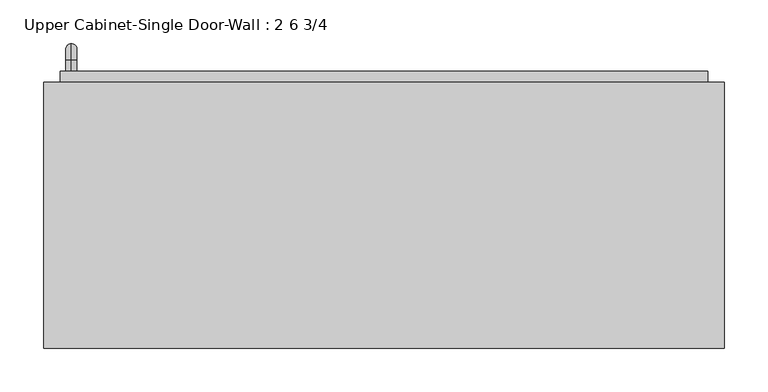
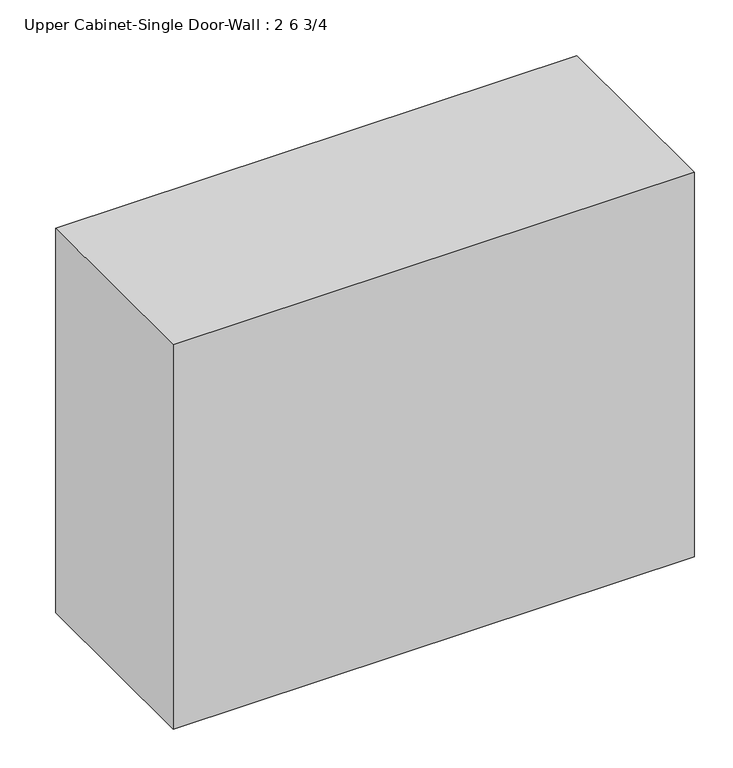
"""IFC4 building model written with IfcOpenShell, lengths in millimetres: furniture geometry, Upper Cabinet-Single Door-Wall : 2 6 3/4."""

from ifc_helpers import new_model, si_unit, point, frame, origin, place, context, project, spatial, polyline, circle_curve, ellipse_curve, trimmed, outline, extrude, faceted_brep, source, transform, mapped, element, save
from ifc_brep_helpers import plane_surface, cylinder_surface, revolved_surface, advanced_brep


def upper_cabinet_single_door_wall_2_6_3_4_3956a76a(model_context):
    return source(origin(), model_context, "Body", "SolidModel", [
        faceted_brep([(-360.7538372, 90.4875, 2133.6), (-360.7538372, 90.4875, 1524.0), (420.2961628, 90.4875, 1524.0), (420.2961628, 90.4875, 2133.6), (-360.7538372, 395.2875, 2133.6), (420.2961628, 395.2875, 2133.6), (420.2961628, 395.2875, 1524.0), (-360.7538372, 395.2875, 1524.0), (-341.7038372, 395.2875, 2114.55), (-341.7038372, 395.2875, 1543.05), (401.2461628, 395.2875, 1543.05), (401.2461628, 395.2875, 2114.55), (401.2461628, 109.5375, 2114.55), (-341.7038372, 109.5375, 2114.55), (401.2461628, 109.5375, 1543.05), (-341.7038372, 109.5375, 1543.05)], [[[0, 1, 2, 3]], [[4, 5, 6, 7], [8, 9, 10, 11]], [[1, 0, 4, 7]], [[2, 1, 7, 6]], [[3, 2, 6, 5]], [[0, 3, 5, 4]], [[8, 11, 12, 13]], [[11, 10, 14, 12]], [[10, 9, 15, 14]], [[9, 8, 13, 15]], [[13, 12, 14, 15]]]),
        advanced_brep(
        [(-329.0038372, 407.9875, 1670.05), (-329.0038372, 407.9875, 1682.75), (-329.0038372, 420.6875, 1670.05), (-329.0038372, 420.6875, 1682.75), (-329.0038372, 439.7375, 1663.7), (-329.0038372, 427.0375, 1663.7), (-329.0038372, 427.0375, 1587.5), (-329.0038372, 439.7375, 1587.5), (-329.0038372, 420.6875, 1568.45), (-329.0038372, 420.6875, 1581.15), (-329.0038372, 407.9875, 1581.15), (-329.0038372, 407.9875, 1568.45)],
        [
            (0, 1, circle_curve(frame((-329.0038372, 407.9875, 1676.4), z_axis=(0.0, -1.0, 0.0), x_axis=(0.0, 0.0, 1.0)), 6.35)),
            (1, 0, circle_curve(frame((-329.0038372, 407.9875, 1676.4), z_axis=(0.0, -1.0, 0.0), x_axis=(0.0, 0.0, 1.0)), 6.35)),
            (0, 2),
            (2, 3, circle_curve(frame((-329.0038372, 420.6875, 1676.4), z_axis=(0.0, -1.0, 0.0), x_axis=(0.0, 0.0, 1.0)), 6.35)),
            (3, 1),
            (3, 2, circle_curve(frame((-329.0038372, 420.6875, 1676.4), z_axis=(0.0, -1.0, 0.0), x_axis=(0.0, 0.0, 1.0)), 6.35)),
            (4, 3, circle_curve(frame((-329.0038372, 420.6875, 1663.7), z_axis=(1.0, 0.0, 0.0), x_axis=(0.0, 0.0, 1.0)), 19.05)),
            (2, 5, circle_curve(frame((-329.0038372, 420.6875, 1663.7), z_axis=(-1.0, 0.0, 0.0), x_axis=(0.0, 0.0, 1.0)), 6.35)),
            (5, 4, circle_curve(frame((-329.0038372, 433.3875, 1663.7), z_axis=(0.0, 0.0, 1.0), x_axis=(0.0, 1.0, 0.0)), 6.35)),
            (4, 5, circle_curve(frame((-329.0038372, 433.3875, 1663.7), z_axis=(0.0, 0.0, 1.0), x_axis=(0.0, 1.0, 0.0)), 6.35)),
            (5, 6),
            (6, 7, circle_curve(frame((-329.0038372, 433.3875, 1587.5), z_axis=(0.0, 0.0, 1.0), x_axis=(0.0, 1.0, 0.0)), 6.35)),
            (7, 4),
            (7, 6, circle_curve(frame((-329.0038372, 433.3875, 1587.5), z_axis=(0.0, 0.0, 1.0), x_axis=(0.0, 1.0, 0.0)), 6.35)),
            (8, 7, circle_curve(frame((-329.0038372, 420.6875, 1587.5), z_axis=(1.0, 0.0, 0.0), x_axis=(0.0, 1.0, 0.0)), 19.05)),
            (6, 9, circle_curve(frame((-329.0038372, 420.6875, 1587.5), z_axis=(-1.0, 0.0, 0.0), x_axis=(0.0, 1.0, 0.0)), 6.35)),
            (9, 8, circle_curve(frame((-329.0038372, 420.6875, 1574.8), z_axis=(0.0, 1.0, 0.0), x_axis=(0.0, 0.0, -1.0)), 6.35)),
            (8, 9, circle_curve(frame((-329.0038372, 420.6875, 1574.8), z_axis=(0.0, 1.0, 0.0), x_axis=(0.0, 0.0, -1.0)), 6.35)),
            (10, 11, circle_curve(frame((-329.0038372, 407.9875, 1574.8), z_axis=(0.0, -1.0, 0.0), x_axis=(0.0, 0.0, -1.0)), 6.35)),
            (11, 10, circle_curve(frame((-329.0038372, 407.9875, 1574.8), z_axis=(0.0, -1.0, 0.0), x_axis=(0.0, 0.0, -1.0)), 6.35)),
            (9, 10),
            (11, 8),
        ],
        [
            plane_surface(frame((-335.3538372, 407.9875, 1676.4), z_axis=(0.0, -1.0, 0.0), x_axis=(0.0, 0.0, 1.0))),
            cylinder_surface(frame((-329.0038372, 407.9875, 1676.4), z_axis=(0.0, -1.0, 0.0), x_axis=(0.0, 0.0, 1.0)), 6.35),
            revolved_surface(trimmed(ellipse_curve(frame((-329.0038372, 420.6875, 1676.4), z_axis=(0.0, -1.0, 0.0), x_axis=(0.0, 0.0, 1.0)), 6.35, 6.35), [point((-329.0038372, 420.6875, 1670.05))], [point((-329.0038372, 420.6875, 1682.75))], True, "CARTESIAN"), (-329.0038372, 420.6875, 1663.7), (-1.0, 0.0, 0.0)),
            revolved_surface(trimmed(ellipse_curve(frame((-329.0038372, 420.6875, 1676.4), z_axis=(0.0, -1.0, 0.0), x_axis=(0.0, 0.0, 1.0)), 6.35, 6.35), [point((-329.0038372, 420.6875, 1682.75))], [point((-329.0038372, 420.6875, 1670.05))], True, "CARTESIAN"), (-329.0038372, 420.6875, 1663.7), (-1.0, 0.0, 0.0)),
            cylinder_surface(frame((-329.0038372, 433.3875, 1663.7), z_axis=(0.0, 0.0, 1.0), x_axis=(0.0, 1.0, 0.0)), 6.35),
            revolved_surface(trimmed(ellipse_curve(frame((-329.0038372, 433.3875, 1587.5), z_axis=(0.0, 0.0, 1.0), x_axis=(0.0, 1.0, 0.0)), 6.35, 6.35), [point((-329.0038372, 427.0375, 1587.5))], [point((-329.0038372, 439.7375, 1587.5))], True, "CARTESIAN"), (-329.0038372, 420.6875, 1587.5), (-1.0, 0.0, 0.0)),
            revolved_surface(trimmed(ellipse_curve(frame((-329.0038372, 433.3875, 1587.5), z_axis=(0.0, 0.0, 1.0), x_axis=(0.0, 1.0, 0.0)), 6.35, 6.35), [point((-329.0038372, 439.7375, 1587.5))], [point((-329.0038372, 427.0375, 1587.5))], True, "CARTESIAN"), (-329.0038372, 420.6875, 1587.5), (-1.0, 0.0, 0.0)),
            plane_surface(frame((-335.3538372, 407.9875, 1574.8), z_axis=(0.0, -1.0, 0.0), x_axis=(0.0, 0.0, -1.0))),
            cylinder_surface(frame((-329.0038372, 420.6875, 1574.8), z_axis=(0.0, 1.0, 0.0), x_axis=(0.0, 0.0, -1.0)), 6.35),
        ],
        [
            (0, [[1, 2]]),
            (1, [[-1, 3, 4, 5]]),
            (1, [[-2, -5, 6, -3]]),
            (2, [[7, -4, 8, 9]]),
            (3, [[-8, -6, -7, 10]]),
            (4, [[-9, 11, 12, 13]]),
            (4, [[-10, -13, 14, -11]]),
            (5, [[15, -12, 16, 17]]),
            (6, [[-16, -14, -15, 18]]),
            (7, [[19, 20]]),
            (8, [[-17, 21, -20, 22]]),
            (8, [[-18, -22, -19, -21]]),
        ],
    ),
        extrude(outline(polyline([(-341.7038372, 407.9875), (401.2461628, 407.9875), (401.2461628, 376.2375), (-341.7038372, 376.2375), (-341.7038372, 407.9875)])), frame((0.0, 0.0, 1543.05), z_axis=(0.0, 0.0, 1.0), x_axis=(1.0, 0.0, 0.0)), (0.0, 0.0, 1.0), 571.5),
    ])


if __name__ == "__main__":
    model = new_model("IFC4")
    model_context = context("Model", 3, world=origin())
    ifc_project = project(units=[si_unit("LENGTHUNIT", "METRE", prefix="MILLI")], contexts=[model_context])
    site = spatial("IfcSite", under=ifc_project)
    building = spatial("IfcBuilding", under=site)
    placement = place(None, origin())
    upper_cabinet_single_door_wall_2_6_3_4_shape = upper_cabinet_single_door_wall_2_6_3_4_3956a76a(model_context)
    element("IfcFurniture", 1, ObjectType="Upper Cabinet-Single Door-Wall : 2 6 3/4", at=placement, inside=building, context=model_context, shape_type="MappedRepresentation", body=[
        mapped(upper_cabinet_single_door_wall_2_6_3_4_shape, transform((0.0, 0.0, 0.0), x_axis=(1.0, 0.0, 0.0), y_axis=(0.0, 1.0, 0.0), z_axis=(0.0, 0.0, 1.0))),
    ])
    save(model, "model.ifc")
